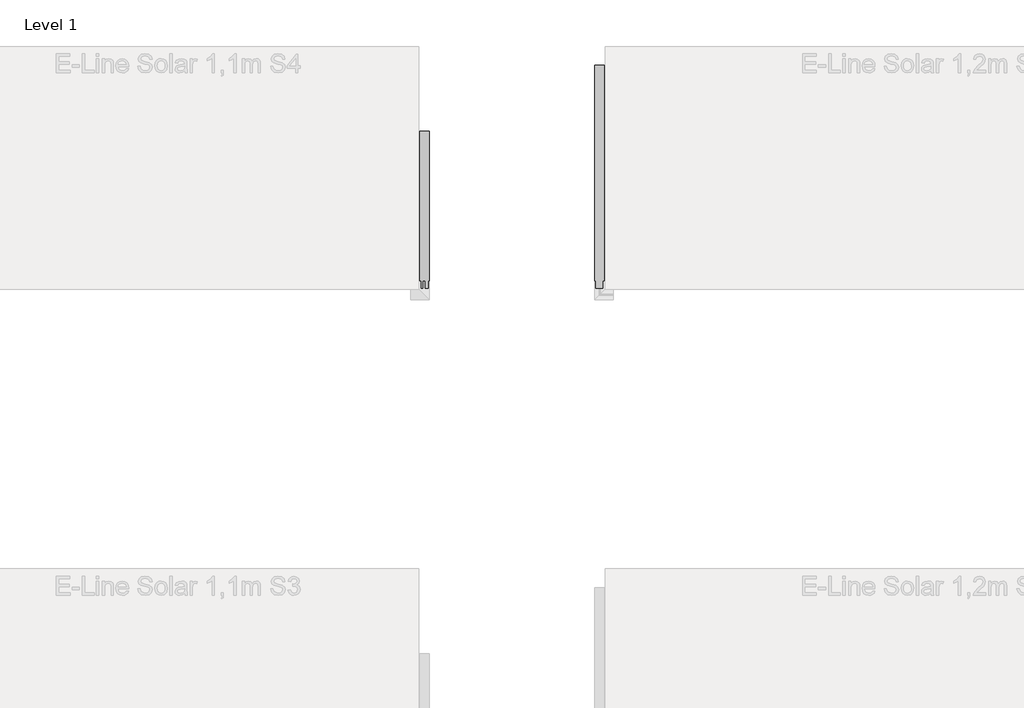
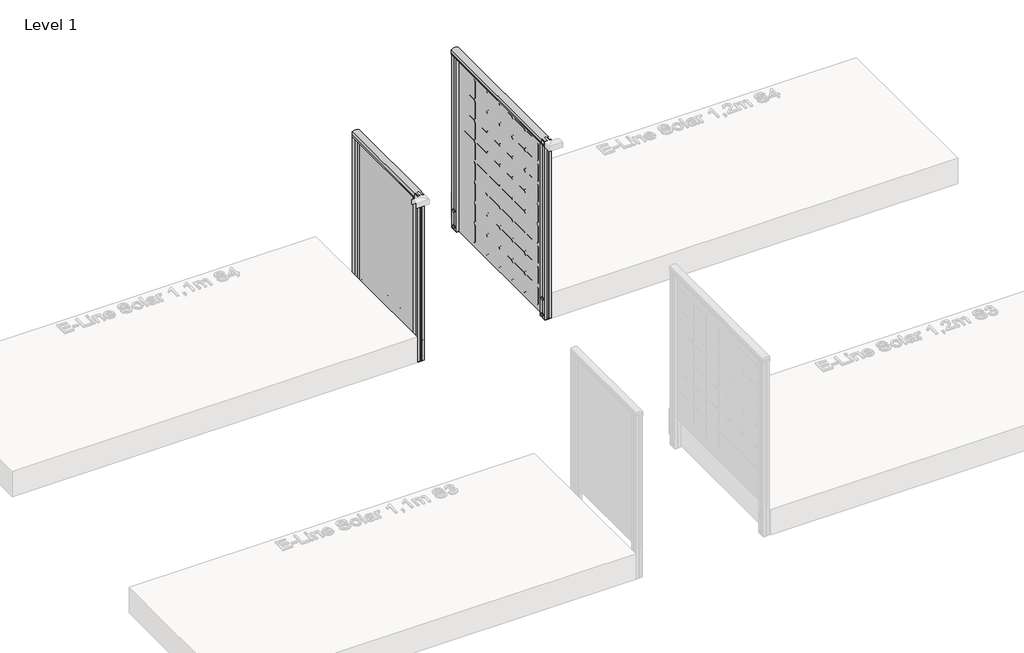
# One storey, part 41 of 66: 2 railings.
"""IFC4 building model written with IfcOpenShell, lengths in millimetres."""

from ifc_helpers import new_model, si_unit, point, frame, frame_2d, origin, place, context, project, spatial, polyline, circle_curve, trimmed, segment, composite_curve, outline, extrude, element, save

model = new_model("IFC4")

# Units and contexts
model_context = context("Model", 3, world=origin())
ifc_project = project(units=[si_unit("LENGTHUNIT", "METRE", prefix="MILLI")], contexts=[model_context])

# Site, building, storey
site = spatial("IfcSite", under=ifc_project)
building = spatial("IfcBuilding", under=site)
storey = spatial("IfcBuildingStorey", under=building, Name="Level 1", Elevation=0.0)

# Railings
placement = place(None, origin())
element("IfcRailing", 1, ObjectType="E-Line Solar 1,2m S4 6 columns of solar elements", at=placement, inside=storey, context=model_context, shape_type="SweptSolid", body=[
    extrude(outline(composite_curve([segment(trimmed(circle_curve(frame_2d((1142.6785502, 23265.8109342)), 57.3235687), [point((1194.1390059, 23291.0658945))], [point((1194.1342258, 23240.5462362))], False, "CARTESIAN"), True, "CONTINUOUS"), segment(polyline([(1194.1342258, 23240.5462362), (1167.0235023, 23240.5462362), (1166.4415706, 23241.128168), (1165.8194895, 23240.5060869), (1157.2498847, 23240.5060869), (1157.2498847, 23242.3110398), (1180.4998829, 23242.3110398), (1180.4998829, 23289.306086), (1157.2498847, 23289.306086), (1157.2498847, 23291.0658945), (1165.9694895, 23291.0658945), (1166.5842725, 23290.4511115), (1167.1990555, 23291.0658945), (1194.1390059, 23291.0658945)]), True, "CONTINUOUS")], self_intersect=False)), frame((0.0, 3023.8815979, 0.0), z_axis=(0.0, 1.0, 0.0), x_axis=(0.0, 0.0, 1.0)), (0.0, 0.0, 1.0), 1195.0),
    extrude(outline(polyline([(23265.6306934, 4218.8815979), (23267.4943763, 4218.8815979), (23267.4943763, 3023.8815979), (23265.6306934, 3023.8815979), (23265.6306934, 4218.8815979)])), frame((0.0, 0.0, -200.0), z_axis=(0.0, 0.0, 1.0), x_axis=(1.0, 0.0, 0.0)), (0.0, 0.0, 1.0), 1.1703418),
    extrude(outline(polyline([(23262.1463105, 4218.8815979), (23270.9063105, 4218.8815979), (23270.9063105, 3023.8815979), (23262.1463105, 3023.8815979), (23262.1463105, 4218.8815979)])), frame((0.0, 0.0, -200.0), z_axis=(0.0, 0.0, 1.0), x_axis=(1.0, 0.0, 0.0)), (0.0, 0.0, 1.0), 1380.0),
    extrude(outline(polyline([(0.0, 0.0), (-16.036927, 16.036927), (-16.036927, 139.963073), (0.0, 156.0), (123.9261459, 156.0), (139.963073, 139.963073), (139.963073, 16.036927), (123.9261459, 0.0), (0.0, 0.0)])), frame((23262.0263105, 3945.8815979, 1096.4156895), z_axis=(1.0, -5.811291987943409e-12, 0.0), x_axis=(0.0, 0.0, -1.0)), (0.0, 0.0, 1.0), 1.0),
    extrude(outline(polyline([(0.0, 0.0), (-16.036927, 16.036927), (-16.036927, 139.963073), (0.0, 156.0), (123.9261459, 156.0), (139.963073, 139.963073), (139.963073, 16.036927), (123.9261459, 0.0), (0.0, 0.0)])), frame((23262.0263105, 3784.8815979, 1096.4156895), z_axis=(1.0, -5.811291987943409e-12, 0.0), x_axis=(0.0, 0.0, -1.0)), (0.0, 0.0, 1.0), 1.0),
    extrude(outline(polyline([(0.0, 0.0), (-16.036927, 16.036927), (-16.036927, 139.963073), (0.0, 156.0), (123.9261459, 156.0), (139.963073, 139.963073), (139.963073, 16.036927), (123.9261459, 0.0), (0.0, 0.0)])), frame((23262.0263105, 3623.8815979, 1096.4156895), z_axis=(1.0, -5.811291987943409e-12, 0.0), x_axis=(0.0, 0.0, -1.0)), (0.0, 0.0, 1.0), 1.0),
    extrude(outline(polyline([(0.0, 0.0), (-16.036927, 16.036927), (-16.036927, 139.963073), (0.0, 156.0), (123.9261459, 156.0), (139.963073, 139.963073), (139.963073, 16.036927), (123.9261459, 0.0), (0.0, 0.0)])), frame((23262.0263105, 3140.8815979, 1096.4156895), z_axis=(1.0, -5.811291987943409e-12, 0.0), x_axis=(0.0, 0.0, -1.0)), (0.0, 0.0, 1.0), 1.0),
    extrude(outline(polyline([(0.0, 0.0), (-16.036927, 16.036927), (-16.036927, 139.963073), (0.0, 156.0), (123.9261459, 156.0), (139.963073, 139.963073), (139.963073, 16.036927), (123.9261459, 0.0), (0.0, 0.0)])), frame((23262.0263105, 3301.8815979, 1096.4156895), z_axis=(1.0, -5.811291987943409e-12, 0.0), x_axis=(0.0, 0.0, -1.0)), (0.0, 0.0, 1.0), 1.0),
    extrude(outline(polyline([(0.0, 0.0), (-16.036927, 16.036927), (-16.036927, 139.963073), (0.0, 156.0), (123.9261459, 156.0), (139.963073, 139.963073), (139.963073, 16.036927), (123.9261459, 0.0), (0.0, 0.0)])), frame((23262.0263105, 3462.8815979, 1096.4156895), z_axis=(1.0, -5.811291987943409e-12, 0.0), x_axis=(0.0, 0.0, -1.0)), (0.0, 0.0, 1.0), 1.0),
    extrude(outline(polyline([(0.0, 0.0), (-16.036927, 16.036927), (-16.036927, 139.963073), (0.0, 156.0), (123.9261459, 156.0), (139.963073, 139.963073), (139.963073, 16.036927), (123.9261459, 0.0), (0.0, 0.0)])), frame((23262.0263105, 3945.8815979, 935.4156895), z_axis=(1.0, -5.811291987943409e-12, 0.0), x_axis=(0.0, 0.0, -1.0)), (0.0, 0.0, 1.0), 1.0),
    extrude(outline(polyline([(0.0, 0.0), (-16.036927, 16.036927), (-16.036927, 139.963073), (0.0, 156.0), (123.9261459, 156.0), (139.963073, 139.963073), (139.963073, 16.036927), (123.9261459, 0.0), (0.0, 0.0)])), frame((23262.0263105, 3784.8815979, 935.4156895), z_axis=(1.0, -5.811291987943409e-12, 0.0), x_axis=(0.0, 0.0, -1.0)), (0.0, 0.0, 1.0), 1.0),
    extrude(outline(polyline([(0.0, 0.0), (-16.036927, 16.036927), (-16.036927, 139.963073), (0.0, 156.0), (123.9261459, 156.0), (139.963073, 139.963073), (139.963073, 16.036927), (123.9261459, 0.0), (0.0, 0.0)])), frame((23262.0263105, 3623.8815979, 935.4156895), z_axis=(1.0, -5.811291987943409e-12, 0.0), x_axis=(0.0, 0.0, -1.0)), (0.0, 0.0, 1.0), 1.0),
    extrude(outline(polyline([(0.0, 0.0), (-16.036927, 16.036927), (-16.036927, 139.963073), (0.0, 156.0), (123.9261459, 156.0), (139.963073, 139.963073), (139.963073, 16.036927), (123.9261459, 0.0), (0.0, 0.0)])), frame((23262.0263105, 3140.8815979, 935.4156895), z_axis=(1.0, -5.811291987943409e-12, 0.0), x_axis=(0.0, 0.0, -1.0)), (0.0, 0.0, 1.0), 1.0),
    extrude(outline(polyline([(0.0, 0.0), (-16.036927, 16.036927), (-16.036927, 139.963073), (0.0, 156.0), (123.9261459, 156.0), (139.963073, 139.963073), (139.963073, 16.036927), (123.9261459, 0.0), (0.0, 0.0)])), frame((23262.0263105, 3301.8815979, 935.4156895), z_axis=(1.0, -5.811291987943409e-12, 0.0), x_axis=(0.0, 0.0, -1.0)), (0.0, 0.0, 1.0), 1.0),
    extrude(outline(polyline([(0.0, 0.0), (-16.036927, 16.036927), (-16.036927, 139.963073), (0.0, 156.0), (123.9261459, 156.0), (139.963073, 139.963073), (139.963073, 16.036927), (123.9261459, 0.0), (0.0, 0.0)])), frame((23262.0263105, 3462.8815979, 935.4156895), z_axis=(1.0, -5.811291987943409e-12, 0.0), x_axis=(0.0, 0.0, -1.0)), (0.0, 0.0, 1.0), 1.0),
    extrude(outline(polyline([(0.0, 0.0), (-16.036927, 16.036927), (-16.036927, 139.963073), (0.0, 156.0), (123.9261459, 156.0), (139.963073, 139.963073), (139.963073, 16.036927), (123.9261459, 0.0), (0.0, 0.0)])), frame((23262.0263105, 3945.8815979, 774.4156895), z_axis=(1.0, -5.811291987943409e-12, 0.0), x_axis=(0.0, 0.0, -1.0)), (0.0, 0.0, 1.0), 1.0),
    extrude(outline(polyline([(0.0, 0.0), (-16.036927, 16.036927), (-16.036927, 139.963073), (0.0, 156.0), (123.9261459, 156.0), (139.963073, 139.963073), (139.963073, 16.036927), (123.9261459, 0.0), (0.0, 0.0)])), frame((23262.0263105, 3784.8815979, 774.4156895), z_axis=(1.0, -5.811291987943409e-12, 0.0), x_axis=(0.0, 0.0, -1.0)), (0.0, 0.0, 1.0), 1.0),
    extrude(outline(polyline([(0.0, 0.0), (-16.036927, 16.036927), (-16.036927, 139.963073), (0.0, 156.0), (123.9261459, 156.0), (139.963073, 139.963073), (139.963073, 16.036927), (123.9261459, 0.0), (0.0, 0.0)])), frame((23262.0263105, 3623.8815979, 774.4156895), z_axis=(1.0, -5.811291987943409e-12, 0.0), x_axis=(0.0, 0.0, -1.0)), (0.0, 0.0, 1.0), 1.0),
    extrude(outline(polyline([(0.0, 0.0), (-16.036927, 16.036927), (-16.036927, 139.963073), (0.0, 156.0), (123.9261459, 156.0), (139.963073, 139.963073), (139.963073, 16.036927), (123.9261459, 0.0), (0.0, 0.0)])), frame((23262.0263105, 3140.8815979, 774.4156895), z_axis=(1.0, -5.811291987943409e-12, 0.0), x_axis=(0.0, 0.0, -1.0)), (0.0, 0.0, 1.0), 1.0),
    extrude(outline(polyline([(0.0, 0.0), (-16.036927, 16.036927), (-16.036927, 139.963073), (0.0, 156.0), (123.9261459, 156.0), (139.963073, 139.963073), (139.963073, 16.036927), (123.9261459, 0.0), (0.0, 0.0)])), frame((23262.0263105, 3301.8815979, 774.4156895), z_axis=(1.0, -5.811291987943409e-12, 0.0), x_axis=(0.0, 0.0, -1.0)), (0.0, 0.0, 1.0), 1.0),
    extrude(outline(polyline([(0.0, 0.0), (-16.036927, 16.036927), (-16.036927, 139.963073), (0.0, 156.0), (123.9261459, 156.0), (139.963073, 139.963073), (139.963073, 16.036927), (123.9261459, 0.0), (0.0, 0.0)])), frame((23262.0263105, 3462.8815979, 774.4156895), z_axis=(1.0, -5.811291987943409e-12, 0.0), x_axis=(0.0, 0.0, -1.0)), (0.0, 0.0, 1.0), 1.0),
    extrude(outline(polyline([(0.0, 0.0), (-16.036927, 16.036927), (-16.036927, 139.963073), (0.0, 156.0), (123.9261459, 156.0), (139.963073, 139.963073), (139.963073, 16.036927), (123.9261459, 0.0), (0.0, 0.0)])), frame((23262.0263105, 3945.8815979, 613.4156895), z_axis=(1.0, -5.811291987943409e-12, 0.0), x_axis=(0.0, 0.0, -1.0)), (0.0, 0.0, 1.0), 1.0),
    extrude(outline(polyline([(0.0, 0.0), (-16.036927, 16.036927), (-16.036927, 139.963073), (0.0, 156.0), (123.9261459, 156.0), (139.963073, 139.963073), (139.963073, 16.036927), (123.9261459, 0.0), (0.0, 0.0)])), frame((23262.0263105, 3945.8815979, 452.4156895), z_axis=(1.0, -5.811291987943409e-12, 0.0), x_axis=(0.0, 0.0, -1.0)), (0.0, 0.0, 1.0), 1.0),
    extrude(outline(polyline([(0.0, 0.0), (-16.036927, 16.036927), (-16.036927, 139.963073), (0.0, 156.0), (123.9261459, 156.0), (139.963073, 139.963073), (139.963073, 16.036927), (123.9261459, 0.0), (0.0, 0.0)])), frame((23262.0263105, 3945.8815979, 291.4156895), z_axis=(1.0, -5.811291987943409e-12, 0.0), x_axis=(0.0, 0.0, -1.0)), (0.0, 0.0, 1.0), 1.0),
    extrude(outline(polyline([(0.0, 0.0), (-16.036927, 16.036927), (-16.036927, 139.963073), (0.0, 156.0), (123.9261459, 156.0), (139.963073, 139.963073), (139.963073, 16.036927), (123.9261459, 0.0), (0.0, 0.0)])), frame((23262.0263105, 3945.8815979, 130.4156895), z_axis=(1.0, -5.811291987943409e-12, 0.0), x_axis=(0.0, 0.0, -1.0)), (0.0, 0.0, 1.0), 1.0),
    extrude(outline(polyline([(0.0, 0.0), (-16.036927, 16.036927), (-16.036927, 139.963073), (0.0, 156.0), (123.9261459, 156.0), (139.963073, 139.963073), (139.963073, 16.036927), (123.9261459, 0.0), (0.0, 0.0)])), frame((23262.0263105, 3945.8815979, -30.5843105), z_axis=(1.0, -5.811291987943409e-12, 0.0), x_axis=(0.0, 0.0, -1.0)), (0.0, 0.0, 1.0), 1.0),
    extrude(outline(polyline([(0.0, 0.0), (-16.036927, 16.036927), (-16.036927, 139.963073), (0.0, 156.0), (123.9261459, 156.0), (139.963073, 139.963073), (139.963073, 16.036927), (123.9261459, 0.0), (0.0, 0.0)])), frame((23262.0263105, 3784.8815979, 613.4156895), z_axis=(1.0, -5.811291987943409e-12, 0.0), x_axis=(0.0, 0.0, -1.0)), (0.0, 0.0, 1.0), 1.0),
    extrude(outline(polyline([(0.0, 0.0), (-16.036927, 16.036927), (-16.036927, 139.963073), (0.0, 156.0), (123.9261459, 156.0), (139.963073, 139.963073), (139.963073, 16.036927), (123.9261459, 0.0), (0.0, 0.0)])), frame((23262.0263105, 3784.8815979, 452.4156895), z_axis=(1.0, -5.811291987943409e-12, 0.0), x_axis=(0.0, 0.0, -1.0)), (0.0, 0.0, 1.0), 1.0),
    extrude(outline(polyline([(0.0, 0.0), (-16.036927, 16.036927), (-16.036927, 139.963073), (0.0, 156.0), (123.9261459, 156.0), (139.963073, 139.963073), (139.963073, 16.036927), (123.9261459, 0.0), (0.0, 0.0)])), frame((23262.0263105, 3784.8815979, 291.4156895), z_axis=(1.0, -5.811291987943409e-12, 0.0), x_axis=(0.0, 0.0, -1.0)), (0.0, 0.0, 1.0), 1.0),
    extrude(outline(polyline([(0.0, 0.0), (-16.036927, 16.036927), (-16.036927, 139.963073), (0.0, 156.0), (123.9261459, 156.0), (139.963073, 139.963073), (139.963073, 16.036927), (123.9261459, 0.0), (0.0, 0.0)])), frame((23262.0263105, 3784.8815979, 130.4156895), z_axis=(1.0, -5.811291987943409e-12, 0.0), x_axis=(0.0, 0.0, -1.0)), (0.0, 0.0, 1.0), 1.0),
    extrude(outline(polyline([(0.0, 0.0), (-16.036927, 16.036927), (-16.036927, 139.963073), (0.0, 156.0), (123.9261459, 156.0), (139.963073, 139.963073), (139.963073, 16.036927), (123.9261459, 0.0), (0.0, 0.0)])), frame((23262.0263105, 3784.8815979, -30.5843105), z_axis=(1.0, -5.811291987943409e-12, 0.0), x_axis=(0.0, 0.0, -1.0)), (0.0, 0.0, 1.0), 1.0),
    extrude(outline(polyline([(0.0, 0.0), (-16.036927, 16.036927), (-16.036927, 139.963073), (0.0, 156.0), (123.9261459, 156.0), (139.963073, 139.963073), (139.963073, 16.036927), (123.9261459, 0.0), (0.0, 0.0)])), frame((23262.0263105, 3623.8815979, 613.4156895), z_axis=(1.0, -5.811291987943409e-12, 0.0), x_axis=(0.0, 0.0, -1.0)), (0.0, 0.0, 1.0), 1.0),
    extrude(outline(polyline([(0.0, 0.0), (-16.036927, 16.036927), (-16.036927, 139.963073), (0.0, 156.0), (123.9261459, 156.0), (139.963073, 139.963073), (139.963073, 16.036927), (123.9261459, 0.0), (0.0, 0.0)])), frame((23262.0263105, 3623.8815979, 452.4156895), z_axis=(1.0, -5.811291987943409e-12, 0.0), x_axis=(0.0, 0.0, -1.0)), (0.0, 0.0, 1.0), 1.0),
    extrude(outline(polyline([(0.0, 0.0), (-16.036927, 16.036927), (-16.036927, 139.963073), (0.0, 156.0), (123.9261459, 156.0), (139.963073, 139.963073), (139.963073, 16.036927), (123.9261459, 0.0), (0.0, 0.0)])), frame((23262.0263105, 3623.8815979, 291.4156895), z_axis=(1.0, -5.811291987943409e-12, 0.0), x_axis=(0.0, 0.0, -1.0)), (0.0, 0.0, 1.0), 1.0),
    extrude(outline(polyline([(0.0, 0.0), (-16.036927, 16.036927), (-16.036927, 139.963073), (0.0, 156.0), (123.9261459, 156.0), (139.963073, 139.963073), (139.963073, 16.036927), (123.9261459, 0.0), (0.0, 0.0)])), frame((23262.0263105, 3623.8815979, 130.4156895), z_axis=(1.0, -5.811291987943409e-12, 0.0), x_axis=(0.0, 0.0, -1.0)), (0.0, 0.0, 1.0), 1.0),
    extrude(outline(polyline([(0.0, 0.0), (-16.036927, 16.036927), (-16.036927, 139.963073), (0.0, 156.0), (123.9261459, 156.0), (139.963073, 139.963073), (139.963073, 16.036927), (123.9261459, 0.0), (0.0, 0.0)])), frame((23262.0263105, 3623.8815979, -30.5843105), z_axis=(1.0, -5.811291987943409e-12, 0.0), x_axis=(0.0, 0.0, -1.0)), (0.0, 0.0, 1.0), 1.0),
    extrude(outline(polyline([(0.0, 0.0), (-16.036927, 16.036927), (-16.036927, 139.963073), (0.0, 156.0), (123.9261459, 156.0), (139.963073, 139.963073), (139.963073, 16.036927), (123.9261459, 0.0), (0.0, 0.0)])), frame((23262.0263105, 3140.8815979, 613.4156895), z_axis=(1.0, -5.811291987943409e-12, 0.0), x_axis=(0.0, 0.0, -1.0)), (0.0, 0.0, 1.0), 1.0),
    extrude(outline(polyline([(0.0, 0.0), (-16.036927, 16.036927), (-16.036927, 139.963073), (0.0, 156.0), (123.9261459, 156.0), (139.963073, 139.963073), (139.963073, 16.036927), (123.9261459, 0.0), (0.0, 0.0)])), frame((23262.0263105, 3140.8815979, 452.4156895), z_axis=(1.0, -5.811291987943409e-12, 0.0), x_axis=(0.0, 0.0, -1.0)), (0.0, 0.0, 1.0), 1.0),
    extrude(outline(polyline([(0.0, 0.0), (-16.036927, 16.036927), (-16.036927, 139.963073), (0.0, 156.0), (123.9261459, 156.0), (139.963073, 139.963073), (139.963073, 16.036927), (123.9261459, 0.0), (0.0, 0.0)])), frame((23262.0263105, 3140.8815979, 291.4156895), z_axis=(1.0, -5.811291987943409e-12, 0.0), x_axis=(0.0, 0.0, -1.0)), (0.0, 0.0, 1.0), 1.0),
    extrude(outline(polyline([(0.0, 0.0), (-16.036927, 16.036927), (-16.036927, 139.963073), (0.0, 156.0), (123.9261459, 156.0), (139.963073, 139.963073), (139.963073, 16.036927), (123.9261459, 0.0), (0.0, 0.0)])), frame((23262.0263105, 3140.8815979, 130.4156895), z_axis=(1.0, -5.811291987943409e-12, 0.0), x_axis=(0.0, 0.0, -1.0)), (0.0, 0.0, 1.0), 1.0),
    extrude(outline(polyline([(0.0, 0.0), (-16.036927, 16.036927), (-16.036927, 139.963073), (0.0, 156.0), (123.9261459, 156.0), (139.963073, 139.963073), (139.963073, 16.036927), (123.9261459, 0.0), (0.0, 0.0)])), frame((23262.0263105, 3140.8815979, -30.5843105), z_axis=(1.0, -5.811291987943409e-12, 0.0), x_axis=(0.0, 0.0, -1.0)), (0.0, 0.0, 1.0), 1.0),
    extrude(outline(polyline([(0.0, 0.0), (-16.036927, 16.036927), (-16.036927, 139.963073), (0.0, 156.0), (123.9261459, 156.0), (139.963073, 139.963073), (139.963073, 16.036927), (123.9261459, 0.0), (0.0, 0.0)])), frame((23262.0263105, 3301.8815979, 613.4156895), z_axis=(1.0, -5.811291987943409e-12, 0.0), x_axis=(0.0, 0.0, -1.0)), (0.0, 0.0, 1.0), 1.0),
    extrude(outline(polyline([(0.0, 0.0), (-16.036927, 16.036927), (-16.036927, 139.963073), (0.0, 156.0), (123.9261459, 156.0), (139.963073, 139.963073), (139.963073, 16.036927), (123.9261459, 0.0), (0.0, 0.0)])), frame((23262.0263105, 3301.8815979, 452.4156895), z_axis=(1.0, -5.811291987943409e-12, 0.0), x_axis=(0.0, 0.0, -1.0)), (0.0, 0.0, 1.0), 1.0),
    extrude(outline(polyline([(0.0, 0.0), (-16.036927, 16.036927), (-16.036927, 139.963073), (0.0, 156.0), (123.9261459, 156.0), (139.963073, 139.963073), (139.963073, 16.036927), (123.9261459, 0.0), (0.0, 0.0)])), frame((23262.0263105, 3301.8815979, 291.4156895), z_axis=(1.0, -5.811291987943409e-12, 0.0), x_axis=(0.0, 0.0, -1.0)), (0.0, 0.0, 1.0), 1.0),
    extrude(outline(polyline([(0.0, 0.0), (-16.036927, 16.036927), (-16.036927, 139.963073), (0.0, 156.0), (123.9261459, 156.0), (139.963073, 139.963073), (139.963073, 16.036927), (123.9261459, 0.0), (0.0, 0.0)])), frame((23262.0263105, 3301.8815979, 130.4156895), z_axis=(1.0, -5.811291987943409e-12, 0.0), x_axis=(0.0, 0.0, -1.0)), (0.0, 0.0, 1.0), 1.0),
    extrude(outline(polyline([(0.0, 0.0), (-16.036927, 16.036927), (-16.036927, 139.963073), (0.0, 156.0), (123.9261459, 156.0), (139.963073, 139.963073), (139.963073, 16.036927), (123.9261459, 0.0), (0.0, 0.0)])), frame((23262.0263105, 3301.8815979, -30.5843105), z_axis=(1.0, -5.811291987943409e-12, 0.0), x_axis=(0.0, 0.0, -1.0)), (0.0, 0.0, 1.0), 1.0),
    extrude(outline(polyline([(0.0, 0.0), (-16.036927, 16.036927), (-16.036927, 139.963073), (0.0, 156.0), (123.9261459, 156.0), (139.963073, 139.963073), (139.963073, 16.036927), (123.9261459, 0.0), (0.0, 0.0)])), frame((23262.0263105, 3462.8815979, 613.4156895), z_axis=(1.0, -5.811291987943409e-12, 0.0), x_axis=(0.0, 0.0, -1.0)), (0.0, 0.0, 1.0), 1.0),
    extrude(outline(polyline([(0.0, 0.0), (-16.036927, 16.036927), (-16.036927, 139.963073), (0.0, 156.0), (123.9261459, 156.0), (139.963073, 139.963073), (139.963073, 16.036927), (123.9261459, 0.0), (0.0, 0.0)])), frame((23262.0263105, 3462.8815979, 452.4156895), z_axis=(1.0, -5.811291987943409e-12, 0.0), x_axis=(0.0, 0.0, -1.0)), (0.0, 0.0, 1.0), 1.0),
    extrude(outline(polyline([(0.0, 0.0), (-16.036927, 16.036927), (-16.036927, 139.963073), (0.0, 156.0), (123.9261459, 156.0), (139.963073, 139.963073), (139.963073, 16.036927), (123.9261459, 0.0), (0.0, 0.0)])), frame((23262.0263105, 3462.8815979, 291.4156895), z_axis=(1.0, -5.811291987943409e-12, 0.0), x_axis=(0.0, 0.0, -1.0)), (0.0, 0.0, 1.0), 1.0),
    extrude(outline(polyline([(0.0, 0.0), (-16.036927, 16.036927), (-16.036927, 139.963073), (0.0, 156.0), (123.9261459, 156.0), (139.963073, 139.963073), (139.963073, 16.036927), (123.9261459, 0.0), (0.0, 0.0)])), frame((23262.0263105, 3462.8815979, 130.4156895), z_axis=(1.0, -5.811291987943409e-12, 0.0), x_axis=(0.0, 0.0, -1.0)), (0.0, 0.0, 1.0), 1.0),
    extrude(outline(polyline([(0.0, 0.0), (-16.036927, 16.036927), (-16.036927, 139.963073), (0.0, 156.0), (123.9261459, 156.0), (139.963073, 139.963073), (139.963073, 16.036927), (123.9261459, 0.0), (0.0, 0.0)])), frame((23262.0263105, 3462.8815979, -30.5843105), z_axis=(1.0, -5.811291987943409e-12, 0.0), x_axis=(0.0, 0.0, -1.0)), (0.0, 0.0, 1.0), 1.0),
    extrude(outline(polyline([(23270.8721725, 3023.883191), (23270.8747497, 3041.3831908), (23262.1147498, 3041.3844809), (23262.1121726, 3023.8844811), (23244.0573652, 3023.88714), (23244.0616532, 3053.004127), (23244.9400753, 3053.8822904), (23244.021743, 3054.9201583), (23244.0260089, 3083.8871452), (23262.1210087, 3083.8844804), (23262.1184315, 3066.3844806), (23270.8784314, 3066.3831905), (23270.8810086, 3083.8831903), (23288.9859597, 3083.880524), (23288.9816865, 3054.8640485), (23287.9932969, 3053.87595), (23289.0214382, 3052.8475058), (23289.0171723, 3023.8805188), (23270.8721725, 3023.883191)]), holes=[polyline([(23246.0202949, 3062.6808129), (23246.0202949, 3045.0868512), (23287.0228863, 3045.0868512), (23287.0228863, 3062.6808129), (23246.0202949, 3062.6808129)]), polyline([(23272.878181, 3081.8808127), (23272.878181, 3064.682896), (23287.0257139, 3064.682896), (23287.0257139, 3081.8808127), (23272.878181, 3081.8808127)]), polyline([(23246.0202949, 3081.884775), (23246.0202949, 3064.6868513), (23260.1207142, 3064.6868513), (23260.1207142, 3081.884775), (23246.0202949, 3081.884775)]), polyline([(23272.872467, 3043.0808132), (23272.872467, 3025.8828965), (23287.0199999, 3025.8828965), (23287.0199999, 3043.0808132), (23272.872467, 3043.0808132)]), polyline([(23245.9674673, 3043.0847754), (23245.9674673, 3025.8868587), (23260.1150002, 3025.8868587), (23260.1150002, 3043.0847754), (23245.9674673, 3043.0847754)])]), frame((0.0, 0.0, -200.0), z_axis=(0.0, 0.0, 1.0), x_axis=(1.0, 0.0, 0.0)), (0.0, 0.0, 1.0), 1381.0),
    extrude(outline(polyline([(23270.8721725, 3023.883191), (23270.8747497, 3041.3831908), (23262.1147498, 3041.3844809), (23262.1121726, 3023.8844811), (23244.0573652, 3023.88714), (23244.0616532, 3053.004127), (23244.9400753, 3053.8822904), (23244.021743, 3054.9201583), (23244.0260089, 3083.8871452), (23262.1210087, 3083.8844804), (23262.1184315, 3066.3844806), (23270.8784314, 3066.3831905), (23270.8810086, 3083.8831903), (23288.9859597, 3083.880524), (23288.9816865, 3054.8640485), (23287.9932969, 3053.87595), (23289.0214382, 3052.8475058), (23289.0171723, 3023.8805188), (23270.8721725, 3023.883191)])), frame((0.0, 0.0, -202.0233958), z_axis=(0.0, 0.0, 1.0), x_axis=(1.0, 0.0, 0.0)), (0.0, 0.0, 1.0), 2.0),
    extrude(outline(composite_curve([segment(trimmed(circle_curve(frame_2d((0.0, 12.0)), 12.0), [point((0.0, 23.9999999))], [point((0.0, 0.0))], False, "CARTESIAN"), True, "CONTINUOUS"), segment(trimmed(circle_curve(frame_2d((0.0, 12.0)), 12.0), [point((0.0, 0.0))], [point((0.0, 23.9999999))], False, "CARTESIAN"), True, "CONTINUOUS")], self_intersect=False)), frame((23244.0668454, 3065.8906355, -175.0), z_axis=(-0.9999999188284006, 0.0004029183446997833, 0.0), x_axis=(0.0, 0.0, -1.0)), (0.0, 0.0, 1.0), 3.0757477),
    extrude(outline(composite_curve([segment(trimmed(circle_curve(frame_2d((0.0, 12.0)), 12.0), [point((0.0, 23.9999999))], [point((0.0, 0.0))], False, "CARTESIAN"), True, "CONTINUOUS"), segment(trimmed(circle_curve(frame_2d((0.0, 12.0)), 12.0), [point((0.0, 0.0))], [point((0.0, 23.9999999))], False, "CARTESIAN"), True, "CONTINUOUS")], self_intersect=False)), frame((23244.0668454, 3065.8906355, -50.0), z_axis=(-0.9999999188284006, 0.0004029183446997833, 0.0), x_axis=(0.0, 0.0, -1.0)), (0.0, 0.0, 1.0), 3.0757477),
    extrude(outline(polyline([(23270.8721725, 4158.883191), (23270.8747497, 4176.3831908), (23262.1147498, 4176.3844809), (23262.1121726, 4158.8844811), (23244.0573652, 4158.88714), (23244.0616532, 4188.004127), (23244.9400753, 4188.8822904), (23244.021743, 4189.9201583), (23244.0260089, 4218.8871452), (23262.1210087, 4218.8844804), (23262.1184315, 4201.3844806), (23270.8784314, 4201.3831905), (23270.8810086, 4218.8831903), (23288.9859597, 4218.880524), (23288.9816865, 4189.8640485), (23287.9932969, 4188.87595), (23289.0214382, 4187.8475058), (23289.0171723, 4158.8805188), (23270.8721725, 4158.883191)]), holes=[polyline([(23246.0202949, 4197.6808129), (23246.0202949, 4180.0868512), (23287.0228863, 4180.0868512), (23287.0228863, 4197.6808129), (23246.0202949, 4197.6808129)]), polyline([(23272.878181, 4216.8808127), (23272.878181, 4199.682896), (23287.0257139, 4199.682896), (23287.0257139, 4216.8808127), (23272.878181, 4216.8808127)]), polyline([(23246.0202949, 4216.884775), (23246.0202949, 4199.6868513), (23260.1207142, 4199.6868513), (23260.1207142, 4216.884775), (23246.0202949, 4216.884775)]), polyline([(23272.872467, 4178.0808132), (23272.872467, 4160.8828965), (23287.0199999, 4160.8828965), (23287.0199999, 4178.0808132), (23272.872467, 4178.0808132)]), polyline([(23245.9674673, 4178.0847754), (23245.9674673, 4160.8868587), (23260.1150002, 4160.8868587), (23260.1150002, 4178.0847754), (23245.9674673, 4178.0847754)])]), frame((0.0, 0.0, -200.0), z_axis=(0.0, 0.0, 1.0), x_axis=(1.0, 0.0, 0.0)), (0.0, 0.0, 1.0), 1381.0),
    extrude(outline(polyline([(23270.8721725, 4158.883191), (23270.8747497, 4176.3831908), (23262.1147498, 4176.3844809), (23262.1121726, 4158.8844811), (23244.0573652, 4158.88714), (23244.0616532, 4188.004127), (23244.9400753, 4188.8822904), (23244.021743, 4189.9201583), (23244.0260089, 4218.8871452), (23262.1210087, 4218.8844804), (23262.1184315, 4201.3844806), (23270.8784314, 4201.3831905), (23270.8810086, 4218.8831903), (23288.9859597, 4218.880524), (23288.9816865, 4189.8640485), (23287.9932969, 4188.87595), (23289.0214382, 4187.8475058), (23289.0171723, 4158.8805188), (23270.8721725, 4158.883191)])), frame((0.0, 0.0, -202.0233958), z_axis=(0.0, 0.0, 1.0), x_axis=(1.0, 0.0, 0.0)), (0.0, 0.0, 1.0), 2.0),
    extrude(outline(composite_curve([segment(trimmed(circle_curve(frame_2d((0.0, 12.0)), 12.0), [point((0.0, 23.9999999))], [point((0.0, 0.0))], False, "CARTESIAN"), True, "CONTINUOUS"), segment(trimmed(circle_curve(frame_2d((0.0, 12.0)), 12.0), [point((0.0, 0.0))], [point((0.0, 23.9999999))], False, "CARTESIAN"), True, "CONTINUOUS")], self_intersect=False)), frame((23244.0668454, 4200.8906355, -175.0), z_axis=(-0.9999999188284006, 0.0004029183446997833, 0.0), x_axis=(0.0, 0.0, -1.0)), (0.0, 0.0, 1.0), 3.0757477),
    extrude(outline(composite_curve([segment(trimmed(circle_curve(frame_2d((0.0, 12.0)), 12.0), [point((0.0, 23.9999999))], [point((0.0, 0.0))], False, "CARTESIAN"), True, "CONTINUOUS"), segment(trimmed(circle_curve(frame_2d((0.0, 12.0)), 12.0), [point((0.0, 0.0))], [point((0.0, 23.9999999))], False, "CARTESIAN"), True, "CONTINUOUS")], self_intersect=False)), frame((23244.0668454, 4200.8906355, -50.0), z_axis=(-0.9999999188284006, 0.0004029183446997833, 0.0), x_axis=(0.0, 0.0, -1.0)), (0.0, 0.0, 1.0), 3.0757477),
])
element("IfcRailing", 2, ObjectType="E-Line Solar 1,1m S4 4 columns of solar elements", at=placement, inside=storey, context=model_context, shape_type="SweptSolid", body=[
    extrude(outline(composite_curve([segment(trimmed(circle_curve(frame_2d((1042.6785502, 22327.2511266)), 57.3235687), [point((1094.1390059, 22352.5060869))], [point((1094.1342258, 22301.9864286))], False, "CARTESIAN"), True, "CONTINUOUS"), segment(polyline([(1094.1342258, 22301.9864286), (1067.0235023, 22301.9864286), (1066.4415706, 22302.5683604), (1065.8194895, 22301.9462793), (1057.2498847, 22301.9462793), (1057.2498847, 22303.7512322), (1080.4998829, 22303.7512322), (1080.4998829, 22350.7462783), (1057.2498847, 22350.7462783), (1057.2498847, 22352.5060869), (1065.9694895, 22352.5060869), (1066.5842725, 22351.8913039), (1067.1990555, 22352.5060869), (1094.1390059, 22352.5060869)]), True, "CONTINUOUS")], self_intersect=False)), frame((0.0, 3023.8815979, 0.0), z_axis=(0.0, 1.0, 0.0), x_axis=(0.0, 0.0, 1.0)), (0.0, 0.0, 1.0), 840.0),
    extrude(outline(polyline([(22325.5582447, 3863.8815979), (22327.4219276, 3863.8815979), (22327.4219276, 3023.8815979), (22325.5582447, 3023.8815979), (22325.5582447, 3863.8815979)])), frame((0.0, 0.0, -200.0), z_axis=(0.0, 0.0, 1.0), x_axis=(1.0, 0.0, 0.0)), (0.0, 0.0, 1.0), 1.1703418),
    extrude(outline(polyline([(22322.1463105, 3863.8815979), (22330.9063105, 3863.8815979), (22330.9063105, 3023.8815979), (22322.1463105, 3023.8815979), (22322.1463105, 3863.8815979)])), frame((0.0, 0.0, -200.0), z_axis=(0.0, 0.0, 1.0), x_axis=(1.0, 0.0, 0.0)), (0.0, 0.0, 1.0), 1280.0),
    extrude(outline(polyline([(0.0, 0.0), (16.036927, -16.036927), (16.036927, -139.963073), (0.0, -156.0), (-123.9261459, -156.0), (-139.963073, -139.963073), (-139.963073, -16.036927), (-123.9261459, 0.0), (0.0, 0.0)])), frame((22330.0263105, 3607.3815979, 984.4156895), z_axis=(1.0, 5.811291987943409e-12, 0.0), x_axis=(0.0, 0.0, 1.0)), (0.0, 0.0, 1.0), 1.0),
    extrude(outline(polyline([(0.0, 0.0), (16.036927, -16.036927), (16.036927, -139.963073), (0.0, -156.0), (-123.9261459, -156.0), (-139.963073, -139.963073), (-139.963073, -16.036927), (-123.9261459, 0.0), (0.0, 0.0)])), frame((22330.0263105, 3446.3815979, 984.4156895), z_axis=(1.0, 5.811291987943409e-12, 0.0), x_axis=(0.0, 0.0, 1.0)), (0.0, 0.0, 1.0), 1.0),
    extrude(outline(polyline([(0.0, 0.0), (16.036927, -16.036927), (16.036927, -139.963073), (0.0, -156.0), (-123.9261459, -156.0), (-139.963073, -139.963073), (-139.963073, -16.036927), (-123.9261459, 0.0), (0.0, 0.0)])), frame((22330.0263105, 3124.3815979, 984.4156895), z_axis=(1.0, 5.811291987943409e-12, 0.0), x_axis=(0.0, 0.0, 1.0)), (0.0, 0.0, 1.0), 1.0),
    extrude(outline(polyline([(0.0, 0.0), (16.036927, -16.036927), (16.036927, -139.963073), (0.0, -156.0), (-123.9261459, -156.0), (-139.963073, -139.963073), (-139.963073, -16.036927), (-123.9261459, 0.0), (0.0, 0.0)])), frame((22330.0263105, 3285.3815979, 984.4156895), z_axis=(1.0, 5.811291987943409e-12, 0.0), x_axis=(0.0, 0.0, 1.0)), (0.0, 0.0, 1.0), 1.0),
    extrude(outline(polyline([(0.0, 0.0), (16.036927, -16.036927), (16.036927, -139.963073), (0.0, -156.0), (-123.9261459, -156.0), (-139.963073, -139.963073), (-139.963073, -16.036927), (-123.9261459, 0.0), (0.0, 0.0)])), frame((22330.0263105, 3607.3815979, 823.4156895), z_axis=(1.0, 5.811291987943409e-12, 0.0), x_axis=(0.0, 0.0, 1.0)), (0.0, 0.0, 1.0), 1.0),
    extrude(outline(polyline([(0.0, 0.0), (16.036927, -16.036927), (16.036927, -139.963073), (0.0, -156.0), (-123.9261459, -156.0), (-139.963073, -139.963073), (-139.963073, -16.036927), (-123.9261459, 0.0), (0.0, 0.0)])), frame((22330.0263105, 3446.3815979, 823.4156895), z_axis=(1.0, 5.811291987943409e-12, 0.0), x_axis=(0.0, 0.0, 1.0)), (0.0, 0.0, 1.0), 1.0),
    extrude(outline(polyline([(0.0, 0.0), (16.036927, -16.036927), (16.036927, -139.963073), (0.0, -156.0), (-123.9261459, -156.0), (-139.963073, -139.963073), (-139.963073, -16.036927), (-123.9261459, 0.0), (0.0, 0.0)])), frame((22330.0263105, 3124.3815979, 823.4156895), z_axis=(1.0, 5.811291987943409e-12, 0.0), x_axis=(0.0, 0.0, 1.0)), (0.0, 0.0, 1.0), 1.0),
    extrude(outline(polyline([(0.0, 0.0), (16.036927, -16.036927), (16.036927, -139.963073), (0.0, -156.0), (-123.9261459, -156.0), (-139.963073, -139.963073), (-139.963073, -16.036927), (-123.9261459, 0.0), (0.0, 0.0)])), frame((22330.0263105, 3285.3815979, 823.4156895), z_axis=(1.0, 5.811291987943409e-12, 0.0), x_axis=(0.0, 0.0, 1.0)), (0.0, 0.0, 1.0), 1.0),
    extrude(outline(polyline([(0.0, 0.0), (16.036927, -16.036927), (16.036927, -139.963073), (0.0, -156.0), (-123.9261459, -156.0), (-139.963073, -139.963073), (-139.963073, -16.036927), (-123.9261459, 0.0), (0.0, 0.0)])), frame((22330.0263105, 3607.3815979, 662.4156895), z_axis=(1.0, 5.811291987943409e-12, 0.0), x_axis=(0.0, 0.0, 1.0)), (0.0, 0.0, 1.0), 1.0),
    extrude(outline(polyline([(0.0, 0.0), (16.036927, -16.036927), (16.036927, -139.963073), (0.0, -156.0), (-123.9261459, -156.0), (-139.963073, -139.963073), (-139.963073, -16.036927), (-123.9261459, 0.0), (0.0, 0.0)])), frame((22330.0263105, 3607.3815979, 501.4156895), z_axis=(1.0, 5.811291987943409e-12, 0.0), x_axis=(0.0, 0.0, 1.0)), (0.0, 0.0, 1.0), 1.0),
    extrude(outline(polyline([(0.0, 0.0), (16.036927, -16.036927), (16.036927, -139.963073), (0.0, -156.0), (-123.9261459, -156.0), (-139.963073, -139.963073), (-139.963073, -16.036927), (-123.9261459, 0.0), (0.0, 0.0)])), frame((22330.0263105, 3607.3815979, 340.4156895), z_axis=(1.0, 5.811291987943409e-12, 0.0), x_axis=(0.0, 0.0, 1.0)), (0.0, 0.0, 1.0), 1.0),
    extrude(outline(polyline([(0.0, 0.0), (16.036927, -16.036927), (16.036927, -139.963073), (0.0, -156.0), (-123.9261459, -156.0), (-139.963073, -139.963073), (-139.963073, -16.036927), (-123.9261459, 0.0), (0.0, 0.0)])), frame((22330.0263105, 3607.3815979, 179.4156895), z_axis=(1.0, 5.811291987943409e-12, 0.0), x_axis=(0.0, 0.0, 1.0)), (0.0, 0.0, 1.0), 1.0),
    extrude(outline(polyline([(0.0, 0.0), (16.036927, -16.036927), (16.036927, -139.963073), (0.0, -156.0), (-123.9261459, -156.0), (-139.963073, -139.963073), (-139.963073, -16.036927), (-123.9261459, 0.0), (0.0, 0.0)])), frame((22330.0263105, 3607.3815979, 18.4156895), z_axis=(1.0, 5.811291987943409e-12, 0.0), x_axis=(0.0, 0.0, 1.0)), (0.0, 0.0, 1.0), 1.0),
    extrude(outline(polyline([(0.0, 0.0), (16.036927, -16.036927), (16.036927, -139.963073), (0.0, -156.0), (-123.9261459, -156.0), (-139.963073, -139.963073), (-139.963073, -16.036927), (-123.9261459, 0.0), (0.0, 0.0)])), frame((22330.0263105, 3446.3815979, 662.4156895), z_axis=(1.0, 5.811291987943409e-12, 0.0), x_axis=(0.0, 0.0, 1.0)), (0.0, 0.0, 1.0), 1.0),
    extrude(outline(polyline([(0.0, 0.0), (16.036927, -16.036927), (16.036927, -139.963073), (0.0, -156.0), (-123.9261459, -156.0), (-139.963073, -139.963073), (-139.963073, -16.036927), (-123.9261459, 0.0), (0.0, 0.0)])), frame((22330.0263105, 3446.3815979, 501.4156895), z_axis=(1.0, 5.811291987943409e-12, 0.0), x_axis=(0.0, 0.0, 1.0)), (0.0, 0.0, 1.0), 1.0),
    extrude(outline(polyline([(0.0, 0.0), (16.036927, -16.036927), (16.036927, -139.963073), (0.0, -156.0), (-123.9261459, -156.0), (-139.963073, -139.963073), (-139.963073, -16.036927), (-123.9261459, 0.0), (0.0, 0.0)])), frame((22330.0263105, 3446.3815979, 340.4156895), z_axis=(1.0, 5.811291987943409e-12, 0.0), x_axis=(0.0, 0.0, 1.0)), (0.0, 0.0, 1.0), 1.0),
    extrude(outline(polyline([(0.0, 0.0), (16.036927, -16.036927), (16.036927, -139.963073), (0.0, -156.0), (-123.9261459, -156.0), (-139.963073, -139.963073), (-139.963073, -16.036927), (-123.9261459, 0.0), (0.0, 0.0)])), frame((22330.0263105, 3446.3815979, 179.4156895), z_axis=(1.0, 5.811291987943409e-12, 0.0), x_axis=(0.0, 0.0, 1.0)), (0.0, 0.0, 1.0), 1.0),
    extrude(outline(polyline([(0.0, 0.0), (16.036927, -16.036927), (16.036927, -139.963073), (0.0, -156.0), (-123.9261459, -156.0), (-139.963073, -139.963073), (-139.963073, -16.036927), (-123.9261459, 0.0), (0.0, 0.0)])), frame((22330.0263105, 3446.3815979, 18.4156895), z_axis=(1.0, 5.811291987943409e-12, 0.0), x_axis=(0.0, 0.0, 1.0)), (0.0, 0.0, 1.0), 1.0),
    extrude(outline(polyline([(0.0, 0.0), (16.036927, -16.036927), (16.036927, -139.963073), (0.0, -156.0), (-123.9261459, -156.0), (-139.963073, -139.963073), (-139.963073, -16.036927), (-123.9261459, 0.0), (0.0, 0.0)])), frame((22330.0263105, 3124.3815979, 662.4156895), z_axis=(1.0, 5.811291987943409e-12, 0.0), x_axis=(0.0, 0.0, 1.0)), (0.0, 0.0, 1.0), 1.0),
    extrude(outline(polyline([(0.0, 0.0), (16.036927, -16.036927), (16.036927, -139.963073), (0.0, -156.0), (-123.9261459, -156.0), (-139.963073, -139.963073), (-139.963073, -16.036927), (-123.9261459, 0.0), (0.0, 0.0)])), frame((22330.0263105, 3124.3815979, 501.4156895), z_axis=(1.0, 5.811291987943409e-12, 0.0), x_axis=(0.0, 0.0, 1.0)), (0.0, 0.0, 1.0), 1.0),
    extrude(outline(polyline([(0.0, 0.0), (16.036927, -16.036927), (16.036927, -139.963073), (0.0, -156.0), (-123.9261459, -156.0), (-139.963073, -139.963073), (-139.963073, -16.036927), (-123.9261459, 0.0), (0.0, 0.0)])), frame((22330.0263105, 3124.3815979, 340.4156895), z_axis=(1.0, 5.811291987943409e-12, 0.0), x_axis=(0.0, 0.0, 1.0)), (0.0, 0.0, 1.0), 1.0),
    extrude(outline(polyline([(0.0, 0.0), (16.036927, -16.036927), (16.036927, -139.963073), (0.0, -156.0), (-123.9261459, -156.0), (-139.963073, -139.963073), (-139.963073, -16.036927), (-123.9261459, 0.0), (0.0, 0.0)])), frame((22330.0263105, 3124.3815979, 179.4156895), z_axis=(1.0, 5.811291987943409e-12, 0.0), x_axis=(0.0, 0.0, 1.0)), (0.0, 0.0, 1.0), 1.0),
    extrude(outline(polyline([(0.0, 0.0), (16.036927, -16.036927), (16.036927, -139.963073), (0.0, -156.0), (-123.9261459, -156.0), (-139.963073, -139.963073), (-139.963073, -16.036927), (-123.9261459, 0.0), (0.0, 0.0)])), frame((22330.0263105, 3124.3815979, 18.4156895), z_axis=(1.0, 5.811291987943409e-12, 0.0), x_axis=(0.0, 0.0, 1.0)), (0.0, 0.0, 1.0), 1.0),
    extrude(outline(polyline([(0.0, 0.0), (16.036927, -16.036927), (16.036927, -139.963073), (0.0, -156.0), (-123.9261459, -156.0), (-139.963073, -139.963073), (-139.963073, -16.036927), (-123.9261459, 0.0), (0.0, 0.0)])), frame((22330.0263105, 3285.3815979, 662.4156895), z_axis=(1.0, 5.811291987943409e-12, 0.0), x_axis=(0.0, 0.0, 1.0)), (0.0, 0.0, 1.0), 1.0),
    extrude(outline(polyline([(0.0, 0.0), (16.036927, -16.036927), (16.036927, -139.963073), (0.0, -156.0), (-123.9261459, -156.0), (-139.963073, -139.963073), (-139.963073, -16.036927), (-123.9261459, 0.0), (0.0, 0.0)])), frame((22330.0263105, 3285.3815979, 501.4156895), z_axis=(1.0, 5.811291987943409e-12, 0.0), x_axis=(0.0, 0.0, 1.0)), (0.0, 0.0, 1.0), 1.0),
    extrude(outline(polyline([(0.0, 0.0), (16.036927, -16.036927), (16.036927, -139.963073), (0.0, -156.0), (-123.9261459, -156.0), (-139.963073, -139.963073), (-139.963073, -16.036927), (-123.9261459, 0.0), (0.0, 0.0)])), frame((22330.0263105, 3285.3815979, 340.4156895), z_axis=(1.0, 5.811291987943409e-12, 0.0), x_axis=(0.0, 0.0, 1.0)), (0.0, 0.0, 1.0), 1.0),
    extrude(outline(polyline([(0.0, 0.0), (16.036927, -16.036927), (16.036927, -139.963073), (0.0, -156.0), (-123.9261459, -156.0), (-139.963073, -139.963073), (-139.963073, -16.036927), (-123.9261459, 0.0), (0.0, 0.0)])), frame((22330.0263105, 3285.3815979, 179.4156895), z_axis=(1.0, 5.811291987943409e-12, 0.0), x_axis=(0.0, 0.0, 1.0)), (0.0, 0.0, 1.0), 1.0),
    extrude(outline(polyline([(0.0, 0.0), (16.036927, -16.036927), (16.036927, -139.963073), (0.0, -156.0), (-123.9261459, -156.0), (-139.963073, -139.963073), (-139.963073, -16.036927), (-123.9261459, 0.0), (0.0, 0.0)])), frame((22330.0263105, 3285.3815979, 18.4156895), z_axis=(1.0, 5.811291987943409e-12, 0.0), x_axis=(0.0, 0.0, 1.0)), (0.0, 0.0, 1.0), 1.0),
    extrude(outline(polyline([(22322.1804485, 3023.883191), (22304.0354487, 3023.8805188), (22304.0311828, 3052.8475058), (22305.0593241, 3053.87595), (22304.0709345, 3054.8640485), (22304.0666613, 3083.880524), (22322.1716124, 3083.8831903), (22322.1741896, 3066.3831905), (22330.9341895, 3066.3844806), (22330.9316123, 3083.8844804), (22349.0266121, 3083.8871452), (22349.030878, 3054.9201583), (22348.1125457, 3053.8822904), (22348.9909678, 3053.004127), (22348.9952559, 3023.88714), (22330.9404484, 3023.8844811), (22330.9378712, 3041.3844809), (22322.1778713, 3041.3831908), (22322.1804485, 3023.883191)]), holes=[polyline([(22347.0323262, 3062.6808129), (22306.0297347, 3062.6808129), (22306.0297347, 3045.0868512), (22347.0323262, 3045.0868512), (22347.0323262, 3062.6808129)]), polyline([(22320.17444, 3081.8808127), (22306.0269071, 3081.8808127), (22306.0269071, 3064.682896), (22320.17444, 3064.682896), (22320.17444, 3081.8808127)]), polyline([(22347.0323262, 3081.884775), (22332.9319068, 3081.884775), (22332.9319068, 3064.6868513), (22347.0323262, 3064.6868513), (22347.0323262, 3081.884775)]), polyline([(22320.180154, 3043.0808132), (22306.0326211, 3043.0808132), (22306.0326211, 3025.8828965), (22320.180154, 3025.8828965), (22320.180154, 3043.0808132)]), polyline([(22347.0851537, 3043.0847754), (22332.9376209, 3043.0847754), (22332.9376209, 3025.8868587), (22347.0851537, 3025.8868587), (22347.0851537, 3043.0847754)])]), frame((0.0, 0.0, -200.0), z_axis=(0.0, 0.0, 1.0), x_axis=(1.0, 0.0, 0.0)), (0.0, 0.0, 1.0), 1281.0),
    extrude(outline(polyline([(22322.1804485, 3023.883191), (22304.0354487, 3023.8805188), (22304.0311828, 3052.8475058), (22305.0593241, 3053.87595), (22304.0709345, 3054.8640485), (22304.0666613, 3083.880524), (22322.1716124, 3083.8831903), (22322.1741896, 3066.3831905), (22330.9341895, 3066.3844806), (22330.9316123, 3083.8844804), (22349.0266121, 3083.8871452), (22349.030878, 3054.9201583), (22348.1125457, 3053.8822904), (22348.9909678, 3053.004127), (22348.9952559, 3023.88714), (22330.9404484, 3023.8844811), (22330.9378712, 3041.3844809), (22322.1778713, 3041.3831908), (22322.1804485, 3023.883191)])), frame((0.0, 0.0, -202.0233958), z_axis=(0.0, 0.0, 1.0), x_axis=(1.0, 0.0, 0.0)), (0.0, 0.0, 1.0), 2.0),
    extrude(outline(composite_curve([segment(trimmed(circle_curve(frame_2d((0.0, -12.0)), 12.0), [point((0.0, -23.9999999))], [point((0.0, 0.0))], False, "CARTESIAN"), True, "CONTINUOUS"), segment(trimmed(circle_curve(frame_2d((0.0, -12.0)), 12.0), [point((0.0, 0.0))], [point((0.0, -23.9999999))], False, "CARTESIAN"), True, "CONTINUOUS")], self_intersect=False)), frame((22348.9857756, 3065.8906355, -175.0), z_axis=(0.9999999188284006, 0.0004029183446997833, 0.0), x_axis=(0.0, 0.0, -1.0)), (0.0, 0.0, 1.0), 3.0757477),
    extrude(outline(composite_curve([segment(trimmed(circle_curve(frame_2d((0.0, -12.0)), 12.0), [point((0.0, -23.9999999))], [point((0.0, 0.0))], False, "CARTESIAN"), True, "CONTINUOUS"), segment(trimmed(circle_curve(frame_2d((0.0, -12.0)), 12.0), [point((0.0, 0.0))], [point((0.0, -23.9999999))], False, "CARTESIAN"), True, "CONTINUOUS")], self_intersect=False)), frame((22348.9857756, 3065.8906355, -50.0), z_axis=(0.9999999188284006, 0.0004029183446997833, 0.0), x_axis=(0.0, 0.0, -1.0)), (0.0, 0.0, 1.0), 3.0757477),
    extrude(outline(polyline([(22322.1804485, 3803.883191), (22304.0354487, 3803.8805188), (22304.0311828, 3832.8475058), (22305.0593241, 3833.87595), (22304.0709345, 3834.8640485), (22304.0666613, 3863.880524), (22322.1716124, 3863.8831903), (22322.1741896, 3846.3831905), (22330.9341895, 3846.3844806), (22330.9316123, 3863.8844804), (22349.0266121, 3863.8871452), (22349.030878, 3834.9201583), (22348.1125457, 3833.8822904), (22348.9909678, 3833.004127), (22348.9952559, 3803.88714), (22330.9404484, 3803.8844811), (22330.9378712, 3821.3844809), (22322.1778713, 3821.3831908), (22322.1804485, 3803.883191)]), holes=[polyline([(22347.0323262, 3842.6808129), (22306.0297347, 3842.6808129), (22306.0297347, 3825.0868512), (22347.0323262, 3825.0868512), (22347.0323262, 3842.6808129)]), polyline([(22320.17444, 3861.8808127), (22306.0269071, 3861.8808127), (22306.0269071, 3844.682896), (22320.17444, 3844.682896), (22320.17444, 3861.8808127)]), polyline([(22347.0323262, 3861.884775), (22332.9319068, 3861.884775), (22332.9319068, 3844.6868513), (22347.0323262, 3844.6868513), (22347.0323262, 3861.884775)]), polyline([(22320.180154, 3823.0808132), (22306.0326211, 3823.0808132), (22306.0326211, 3805.8828965), (22320.180154, 3805.8828965), (22320.180154, 3823.0808132)]), polyline([(22347.0851537, 3823.0847754), (22332.9376209, 3823.0847754), (22332.9376209, 3805.8868587), (22347.0851537, 3805.8868587), (22347.0851537, 3823.0847754)])]), frame((0.0, 0.0, -200.0), z_axis=(0.0, 0.0, 1.0), x_axis=(1.0, 0.0, 0.0)), (0.0, 0.0, 1.0), 1281.0),
    extrude(outline(polyline([(22322.1804485, 3803.883191), (22304.0354487, 3803.8805188), (22304.0311828, 3832.8475058), (22305.0593241, 3833.87595), (22304.0709345, 3834.8640485), (22304.0666613, 3863.880524), (22322.1716124, 3863.8831903), (22322.1741896, 3846.3831905), (22330.9341895, 3846.3844806), (22330.9316123, 3863.8844804), (22349.0266121, 3863.8871452), (22349.030878, 3834.9201583), (22348.1125457, 3833.8822904), (22348.9909678, 3833.004127), (22348.9952559, 3803.88714), (22330.9404484, 3803.8844811), (22330.9378712, 3821.3844809), (22322.1778713, 3821.3831908), (22322.1804485, 3803.883191)])), frame((0.0, 0.0, -202.0233958), z_axis=(0.0, 0.0, 1.0), x_axis=(1.0, 0.0, 0.0)), (0.0, 0.0, 1.0), 2.0),
    extrude(outline(composite_curve([segment(trimmed(circle_curve(frame_2d((0.0, -12.0)), 12.0), [point((0.0, -23.9999999))], [point((0.0, 0.0))], False, "CARTESIAN"), True, "CONTINUOUS"), segment(trimmed(circle_curve(frame_2d((0.0, -12.0)), 12.0), [point((0.0, 0.0))], [point((0.0, -23.9999999))], False, "CARTESIAN"), True, "CONTINUOUS")], self_intersect=False)), frame((22348.9857756, 3845.8906355, -175.0), z_axis=(0.9999999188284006, 0.0004029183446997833, 0.0), x_axis=(0.0, 0.0, -1.0)), (0.0, 0.0, 1.0), 3.0757477),
    extrude(outline(composite_curve([segment(trimmed(circle_curve(frame_2d((0.0, -12.0)), 12.0), [point((0.0, -23.9999999))], [point((0.0, 0.0))], False, "CARTESIAN"), True, "CONTINUOUS"), segment(trimmed(circle_curve(frame_2d((0.0, -12.0)), 12.0), [point((0.0, 0.0))], [point((0.0, -23.9999999))], False, "CARTESIAN"), True, "CONTINUOUS")], self_intersect=False)), frame((22348.9857756, 3845.8906355, -50.0), z_axis=(0.9999999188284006, 0.0004029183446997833, 0.0), x_axis=(0.0, 0.0, -1.0)), (0.0, 0.0, 1.0), 3.0757477),
])

save(model, "model.ifc")
